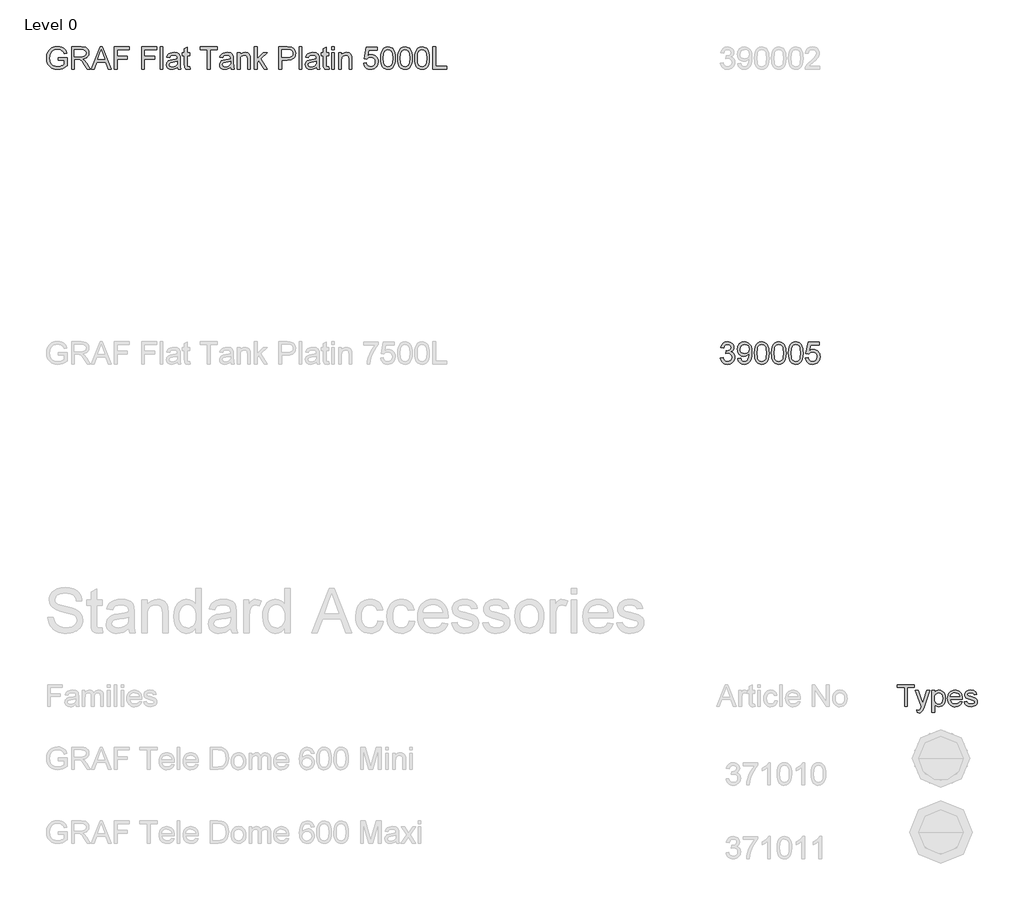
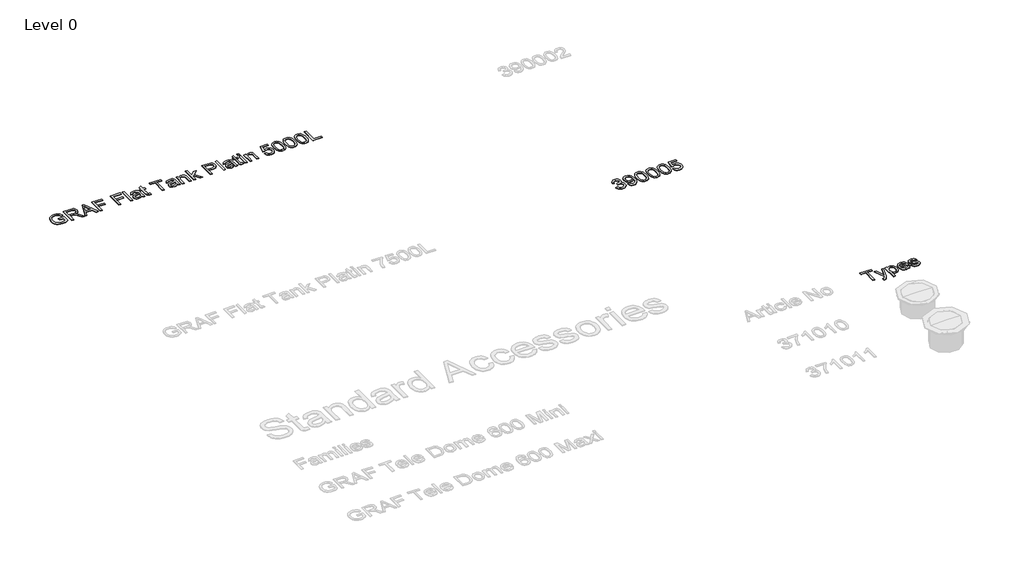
# One storey, part 10 of 14: 3 proxies.
"""IFC4 building model written with IfcOpenShell, lengths in millimetres."""

from ifc_helpers import new_model, si_unit, origin, origin_with_axes, place, context, project, spatial, polyline, outline, extrude, element, save

model = new_model("IFC4")

# Units and contexts
model_context = context("Model", 3, world=origin())
ifc_project = project(units=[si_unit("LENGTHUNIT", "METRE", prefix="MILLI")], contexts=[model_context])

# Site, building, storey
site = spatial("IfcSite", under=ifc_project)
building = spatial("IfcBuilding", under=site)
storey = spatial("IfcBuildingStorey", under=building, Name="Level 0", Elevation=0.0)

# Proxies
placement = place(None, origin())
element("IfcBuildingElementProxy", 1, Name="300mm Arial", ObjectType="300mm Arial", at=placement, inside=storey, context=model_context, shape_type="SweptSolid", body=[
    extrude(outline(polyline([(-15240.9940387, 1416.7454403), (-15240.9940387, 1454.4165566), (-15118.5629107, 1454.4165566), (-15118.5629107, 1341.7710897), (-15148.3153671, 1321.0777274), (-15179.0059225, 1306.2336889), (-15210.5610007, 1297.2941564), (-15242.9070251, 1294.3143123), (-15285.1674693, 1299.050793), (-15323.3628175, 1313.260235), (-15355.0926395, 1336.4459978), (-15377.9565055, 1368.1114405), (-15391.7796715, 1406.0952565), (-15396.3873935, 1448.2361391), (-15391.7980656, 1490.6805243), (-15378.0300819, 1530.1634594), (-15355.6536596, 1563.282036), (-15325.2390156, 1586.6333457), (-15288.1932987, 1600.4841028), (-15245.9236575, 1605.1010218), (-15214.8928112, 1602.4246803), (-15186.9889618, 1594.3956557), (-15163.4904994, 1581.5933623), (-15145.6758138, 1564.5972141), (-15132.4964413, 1542.5886738), (-15122.9039183, 1514.7492038), (-15157.6319786, 1504.9635427), (-15165.3850917, 1524.8199734), (-15174.8120678, 1539.8019677), (-15187.2832674, 1551.0959449), (-15204.169051, 1559.8883246), (-15224.3013932, 1565.5445103), (-15246.5122687, 1567.4299055), (-15272.5123287, 1565.3973575), (-15294.7415982, 1559.2997134), (-15313.1173039, 1549.9003284), (-15327.5566722, 1537.9625577), (-15346.9440533, 1508.9366683), (-15355.7732212, 1480.49939), (-15358.7162772, 1449.7812434), (-15355.175413, 1413.7563991), (-15344.5528204, 1384.1143073), (-15327.1703961, 1361.0665003), (-15303.3500369, 1344.8245102), (-15275.4737787, 1335.195199), (-15245.9236575, 1331.9854286), (-15219.831627, 1334.4042527), (-15194.3833899, 1341.6607251), (-15172.2828791, 1351.6579183), (-15156.234027, 1362.298905), (-15156.234027, 1416.7454403), (-15240.9940387, 1416.7454403)])), origin_with_axes(), (0.0, 0.0, 1.0), 10.0),
    extrude(outline(polyline([(-15057.3473467, 1299.0232018), (-15057.3473467, 1600.3921323), (-14927.4850024, 1600.3921323), (-14892.5821982, 1598.3595842), (-14867.1891434, 1592.2619402), (-14848.6294968, 1581.0047511), (-14834.2269167, 1563.4935682), (-14824.9838815, 1541.7793334), (-14821.9028698, 1517.912989), (-14827.0072325, 1488.2249119), (-14842.3203206, 1463.6136065), (-14853.9200997, 1453.5842236), (-14868.3019865, 1445.5689946), (-14905.4120827, 1435.5809984), (-14884.0013506, 1419.467767), (-14853.467145, 1380.6930048), (-14803.2144645, 1299.0232018), (-14846.9924219, 1299.0232018), (-14886.2086426, 1361.4895646), (-14914.5355562, 1402.8395009), (-14934.4379722, 1422.3740348), (-14952.3538253, 1429.5477337), (-14974.2060158, 1430.8721089), (-15019.6762304, 1430.8721089), (-15019.6762304, 1299.0232018), (-15057.3473467, 1299.0232018)]), holes=[polyline([(-15019.6762304, 1468.5432252), (-14935.3576771, 1468.5432252), (-14911.1418448, 1469.8767974), (-14892.3522719, 1473.8775141), (-14878.2072092, 1480.8120897), (-14867.9249074, 1490.9472387), (-14861.6617165, 1503.2069062), (-14859.5739861, 1516.5150374), (-14863.5563087, 1534.890743), (-14875.5032765, 1549.6979933), (-14896.058683, 1559.4652603), (-14925.8663217, 1562.721016), (-15019.6762304, 1562.721016), (-15019.6762304, 1468.5432252)])]), origin_with_axes(), (0.0, 0.0, 1.0), 10.0),
    extrude(outline(polyline([(-14791.0743586, 1299.0232018), (-14670.7769462, 1600.3921323), (-14638.6976362, 1600.3921323), (-14518.4002238, 1299.0232018), (-14558.2050557, 1299.0232018), (-14592.7123868, 1393.2009926), (-14716.835772, 1393.2009926), (-14751.2695268, 1299.0232018), (-14791.0743586, 1299.0232018)]), holes=[polyline([(-14703.003409, 1430.8721089), (-14606.4711735, 1430.8721089), (-14633.6208647, 1504.9635427), (-14654.7372912, 1562.721016), (-14673.499273, 1511.4382658), (-14703.003409, 1430.8721089)])]), origin_with_axes(), (0.0, 0.0, 1.0), 10.0),
    extrude(outline(polyline([(-14478.1539335, 1299.0232018), (-14478.1539335, 1600.3921323), (-14275.6716834, 1600.3921323), (-14275.6716834, 1562.721016), (-14440.4828172, 1562.721016), (-14440.4828172, 1473.2521147), (-14299.2161311, 1473.2521147), (-14299.2161311, 1435.5809984), (-14440.4828172, 1435.5809984), (-14440.4828172, 1299.0232018), (-14478.1539335, 1299.0232018)])), origin_with_axes(), (0.0, 0.0, 1.0), 10.0),
    extrude(outline(polyline([(-14106.15166, 1299.0232018), (-14106.15166, 1600.3921323), (-13903.6694099, 1600.3921323), (-13903.6694099, 1562.721016), (-14068.4805437, 1562.721016), (-14068.4805437, 1473.2521147), (-13927.2138576, 1473.2521147), (-13927.2138576, 1435.5809984), (-14068.4805437, 1435.5809984), (-14068.4805437, 1299.0232018), (-14106.15166, 1299.0232018)])), origin_with_axes(), (0.0, 0.0, 1.0), 10.0),
    extrude(outline(polyline([(-13856.5805145, 1299.0232018), (-13856.5805145, 1600.3921323), (-13818.9093982, 1600.3921323), (-13818.9093982, 1299.0232018), (-13856.5805145, 1299.0232018)])), origin_with_axes(), (0.0, 0.0, 1.0), 10.0),
    extrude(outline(polyline([(-13621.1360376, 1327.2765391), (-13639.1346642, 1311.8438894), (-13657.6667197, 1301.7455286), (-13677.1552684, 1296.1721164), (-13698.0233746, 1294.3143123), (-13729.5048763, 1298.7840785), (-13752.7274272, 1312.1933772), (-13767.0472339, 1332.5556457), (-13771.8205028, 1357.8843211), (-13770.017881, 1373.5009117), (-13764.6100157, 1387.6827627), (-13756.2682915, 1399.8228685), (-13745.6640929, 1409.314224), (-13719.2869539, 1421.675059), (-13686.6926091, 1427.3404417), (-13648.1753642, 1433.3001301), (-13621.3567668, 1440.289888), (-13621.1360376, 1448.6775975), (-13623.7296056, 1465.4898046), (-13631.5103098, 1476.4894763), (-13648.9111282, 1484.6564566), (-13673.1545517, 1487.3787834), (-13695.5953534, 1485.5669645), (-13711.2671264, 1480.131508), (-13721.9540984, 1470.0791325), (-13729.440497, 1454.4165566), (-13767.1116133, 1459.1254461), (-13760.5725108, 1479.7268379), (-13750.8144409, 1495.9136456), (-13736.9268956, 1508.2928748), (-13717.9993669, 1517.4715306), (-13694.8503924, 1523.1553074), (-13668.2985094, 1525.0498997), (-13642.8318782, 1523.3760366), (-13622.6443538, 1518.3544473), (-13607.4232362, 1510.8036694), (-13596.8558259, 1501.5422402), (-13589.8476739, 1490.0919131), (-13585.3043312, 1475.9744415), (-13583.4649213, 1443.0122147), (-13583.4649213, 1396.1440485), (-13581.5519349, 1330.6978416), (-13574.0471422, 1299.0232018), (-13611.7182585, 1299.0232018), (-13621.1360376, 1327.2765391)]), holes=[polyline([(-13621.1360376, 1402.6187717), (-13681.9101432, 1391.067277), (-13714.320547, 1384.9604359), (-13728.9990386, 1375.027622), (-13734.1493865, 1360.5330714), (-13731.3442863, 1349.3310647), (-13722.9289856, 1340.1524089), (-13709.0874256, 1334.0271737), (-13690.0035471, 1331.9854286), (-13669.7700373, 1334.2387058), (-13651.8909724, 1340.9985375), (-13637.3964218, 1350.9589425), (-13627.3164551, 1362.8139398), (-13622.8466889, 1375.027622), (-13621.3567668, 1391.9501938), (-13621.1360376, 1402.6187717)])]), origin_with_axes(), (0.0, 0.0, 1.0), 10.0),
    extrude(outline(polyline([(-13451.6160142, 1330.4403242), (-13446.9071247, 1297.9195558), (-13475.0868855, 1294.3143123), (-13493.1682856, 1295.8778108), (-13506.6511607, 1300.5683062), (-13516.1793043, 1307.7971874), (-13522.3965101, 1316.9758432), (-13525.8178126, 1332.7395867), (-13526.9582468, 1359.723731), (-13526.9582468, 1482.6698938), (-13555.211584, 1482.6698938), (-13555.211584, 1520.3410101), (-13526.9582468, 1520.3410101), (-13526.9582468, 1574.1253578), (-13489.2871305, 1596.2718539), (-13489.2871305, 1520.3410101), (-13451.6160142, 1520.3410101), (-13451.6160142, 1482.6698938), (-13489.2871305, 1482.6698938), (-13489.2871305, 1360.827377), (-13487.3005677, 1341.4032077), (-13480.8626328, 1334.5238144), (-13468.0235512, 1331.9854286), (-13451.6160142, 1330.4403242)])), origin_with_axes(), (0.0, 0.0, 1.0), 10.0),
    extrude(outline(polyline([(-13216.1715373, 1299.0232018), (-13216.1715373, 1562.721016), (-13315.0582176, 1562.721016), (-13315.0582176, 1600.3921323), (-13079.6137407, 1600.3921323), (-13079.6137407, 1562.721016), (-13178.500421, 1562.721016), (-13178.500421, 1299.0232018), (-13216.1715373, 1299.0232018)])), origin_with_axes(), (0.0, 0.0, 1.0), 10.0),
    extrude(outline(polyline([(-12900.6759382, 1327.2765391), (-12918.6745648, 1311.8438894), (-12937.2066203, 1301.7455286), (-12956.695169, 1296.1721164), (-12977.5632752, 1294.3143123), (-13009.0447769, 1298.7840785), (-13032.2673279, 1312.1933772), (-13046.5871346, 1332.5556457), (-13051.3604034, 1357.8843211), (-13049.5577817, 1373.5009117), (-13044.1499163, 1387.6827627), (-13035.8081921, 1399.8228685), (-13025.2039936, 1409.314224), (-12998.8268545, 1421.675059), (-12966.2325098, 1427.3404417), (-12927.7152649, 1433.3001301), (-12900.8966674, 1440.289888), (-12900.6759382, 1448.6775975), (-12903.2695063, 1465.4898046), (-12911.0502105, 1476.4894763), (-12928.4510289, 1484.6564566), (-12952.6944523, 1487.3787834), (-12975.135254, 1485.5669645), (-12990.807027, 1480.131508), (-13001.493999, 1470.0791325), (-13008.9803976, 1454.4165566), (-13046.6515139, 1459.1254461), (-13040.1124114, 1479.7268379), (-13030.3543415, 1495.9136456), (-13016.4667962, 1508.2928748), (-12997.5392675, 1517.4715306), (-12974.390293, 1523.1553074), (-12947.83841, 1525.0498997), (-12922.3717789, 1523.3760366), (-12902.1842544, 1518.3544473), (-12886.9631368, 1510.8036694), (-12876.3957265, 1501.5422402), (-12869.3875745, 1490.0919131), (-12864.8442319, 1475.9744415), (-12863.0048219, 1443.0122147), (-12863.0048219, 1396.1440485), (-12861.0918355, 1330.6978416), (-12853.5870428, 1299.0232018), (-12891.2581591, 1299.0232018), (-12900.6759382, 1327.2765391)]), holes=[polyline([(-12900.6759382, 1402.6187717), (-12961.4500438, 1391.067277), (-12993.8604476, 1384.9604359), (-13008.5389392, 1375.027622), (-13013.6892871, 1360.5330714), (-13010.8841869, 1349.3310647), (-13002.4688863, 1340.1524089), (-12988.6273262, 1334.0271737), (-12969.5434477, 1331.9854286), (-12949.309938, 1334.2387058), (-12931.430873, 1340.9985375), (-12916.9363224, 1350.9589425), (-12906.8563557, 1362.8139398), (-12902.3865895, 1375.027622), (-12900.8966674, 1391.9501938), (-12900.6759382, 1402.6187717)])]), origin_with_axes(), (0.0, 0.0, 1.0), 10.0),
    extrude(outline(polyline([(-12811.207037, 1299.0232018), (-12811.207037, 1520.3410101), (-12773.5359207, 1520.3410101), (-12773.5359207, 1489.4389225), (-12760.4485187, 1505.018725), (-12744.7307605, 1516.1471554), (-12726.382646, 1522.8242136), (-12705.4041752, 1525.0498997), (-12686.8353315, 1523.2564749), (-12669.8299862, 1517.8762008), (-12655.6481353, 1509.5804618), (-12645.5497746, 1499.0406426), (-12634.2557973, 1471.3391284), (-12632.2692345, 1434.9188108), (-12632.2692345, 1299.0232018), (-12669.9403508, 1299.0232018), (-12669.9403508, 1429.8420393), (-12674.2813584, 1463.1721481), (-12680.287032, 1473.0957649), (-12689.6220376, 1480.7936956), (-12701.5873995, 1485.7325114), (-12715.4841418, 1487.3787834), (-12737.5478645, 1483.6815693), (-12756.3558315, 1472.5899271), (-12763.8721205, 1463.5354315), (-12769.2408984, 1451.1608009), (-12773.5359207, 1416.4511347), (-12773.5359207, 1299.0232018), (-12811.207037, 1299.0232018)])), origin_with_axes(), (0.0, 0.0, 1.0), 10.0),
    extrude(outline(polyline([(-12580.4714496, 1299.0232018), (-12580.4714496, 1600.3921323), (-12542.8003333, 1600.3921323), (-12542.8003333, 1438.450478), (-12458.3346272, 1520.3410101), (-12406.2425367, 1520.3410101), (-12491.7383124, 1437.4204084), (-12401.5336472, 1299.0232018), (-12445.5323338, 1299.0232018), (-12518.7408508, 1411.2272104), (-12542.8003333, 1387.9034919), (-12542.8003333, 1299.0232018), (-12580.4714496, 1299.0232018)])), origin_with_axes(), (0.0, 0.0, 1.0), 10.0),
    extrude(outline(polyline([(-12246.1402924, 1299.0232018), (-12246.1402924, 1600.3921323), (-12134.4513187, 1600.3921323), (-12089.4225625, 1597.5226527), (-12069.3454026, 1592.1607726), (-12052.8183039, 1583.4327723), (-12039.5101728, 1570.9431786), (-12029.0899152, 1554.2965183), (-12022.3576747, 1534.6608168), (-12020.1135946, 1513.2040994), (-12021.6288085, 1494.7042336), (-12026.1744504, 1477.6850928), (-12033.7505203, 1462.146677), (-12044.357018, 1448.0889863), (-12058.9182473, 1436.4363241), (-12078.3585115, 1428.1129939), (-12102.6778106, 1423.1189958), (-12131.8761447, 1421.4543298), (-12208.4691761, 1421.4543298), (-12208.4691761, 1299.0232018), (-12246.1402924, 1299.0232018)]), holes=[polyline([(-12208.4691761, 1459.1254461), (-12129.6688527, 1459.1254461), (-12096.2651676, 1462.5835369), (-12074.1922479, 1472.9578091), (-12061.8865951, 1489.6044694), (-12057.7847109, 1511.8797242), (-12060.203535, 1528.802296), (-12067.4600073, 1543.0761174), (-12078.652817, 1553.8182717), (-12092.8806532, 1560.145842), (-12130.5517695, 1562.721016), (-12208.4691761, 1562.721016), (-12208.4691761, 1459.1254461)])]), origin_with_axes(), (0.0, 0.0, 1.0), 10.0),
    extrude(outline(polyline([(-11973.0246992, 1299.0232018), (-11973.0246992, 1600.3921323), (-11935.3535829, 1600.3921323), (-11935.3535829, 1299.0232018), (-11973.0246992, 1299.0232018)])), origin_with_axes(), (0.0, 0.0, 1.0), 10.0),
    extrude(outline(polyline([(-11737.5802223, 1327.2765391), (-11755.5788489, 1311.8438894), (-11774.1109044, 1301.7455286), (-11793.5994531, 1296.1721164), (-11814.4675593, 1294.3143123), (-11845.949061, 1298.7840785), (-11869.1716119, 1312.1933772), (-11883.4914186, 1332.5556457), (-11888.2646875, 1357.8843211), (-11886.4620657, 1373.5009117), (-11881.0542004, 1387.6827627), (-11872.7124761, 1399.8228685), (-11862.1082776, 1409.314224), (-11835.7311386, 1421.675059), (-11803.1367938, 1427.3404417), (-11764.6195489, 1433.3001301), (-11737.8009515, 1440.289888), (-11737.5802223, 1448.6775975), (-11740.1737903, 1465.4898046), (-11747.9544945, 1476.4894763), (-11765.3553129, 1484.6564566), (-11789.5987364, 1487.3787834), (-11812.0395381, 1485.5669645), (-11827.7113111, 1480.131508), (-11838.398283, 1470.0791325), (-11845.8846816, 1454.4165566), (-11883.555798, 1459.1254461), (-11877.0166955, 1479.7268379), (-11867.2586256, 1495.9136456), (-11853.3710803, 1508.2928748), (-11834.4435516, 1517.4715306), (-11811.2945771, 1523.1553074), (-11784.742694, 1525.0498997), (-11759.2760629, 1523.3760366), (-11739.0885384, 1518.3544473), (-11723.8674209, 1510.8036694), (-11713.3000106, 1501.5422402), (-11706.2918586, 1490.0919131), (-11701.7485159, 1475.9744415), (-11699.909106, 1443.0122147), (-11699.909106, 1396.1440485), (-11697.9961196, 1330.6978416), (-11690.4913269, 1299.0232018), (-11728.1624432, 1299.0232018), (-11737.5802223, 1327.2765391)]), holes=[polyline([(-11737.5802223, 1402.6187717), (-11798.3543279, 1391.067277), (-11830.7647316, 1384.9604359), (-11845.4432233, 1375.027622), (-11850.5935712, 1360.5330714), (-11847.788471, 1349.3310647), (-11839.3731703, 1340.1524089), (-11825.5316103, 1334.0271737), (-11806.4477318, 1331.9854286), (-11786.214222, 1334.2387058), (-11768.3351571, 1340.9985375), (-11753.8406065, 1350.9589425), (-11743.7606398, 1362.8139398), (-11739.2908735, 1375.027622), (-11737.8009515, 1391.9501938), (-11737.5802223, 1402.6187717)])]), origin_with_axes(), (0.0, 0.0, 1.0), 10.0),
    extrude(outline(polyline([(-11568.0601989, 1330.4403242), (-11563.3513094, 1297.9195558), (-11591.5310702, 1294.3143123), (-11609.6124702, 1295.8778108), (-11623.0953454, 1300.5683062), (-11632.623489, 1307.7971874), (-11638.8406948, 1316.9758432), (-11642.2619973, 1332.7395867), (-11643.4024315, 1359.723731), (-11643.4024315, 1482.6698938), (-11671.6557687, 1482.6698938), (-11671.6557687, 1520.3410101), (-11643.4024315, 1520.3410101), (-11643.4024315, 1574.1253578), (-11605.7313152, 1596.2718539), (-11605.7313152, 1520.3410101), (-11568.0601989, 1520.3410101), (-11568.0601989, 1482.6698938), (-11605.7313152, 1482.6698938), (-11605.7313152, 1360.827377), (-11603.7447524, 1341.4032077), (-11597.3068175, 1334.5238144), (-11584.4677359, 1331.9854286), (-11568.0601989, 1330.4403242)])), origin_with_axes(), (0.0, 0.0, 1.0), 10.0),
    extrude(outline(polyline([(-11530.3890826, 1562.721016), (-11530.3890826, 1600.3921323), (-11492.7179663, 1600.3921323), (-11492.7179663, 1562.721016), (-11530.3890826, 1562.721016)])), origin_with_axes(), (0.0, 0.0, 1.0), 10.0),
    extrude(outline(polyline([(-11530.3890826, 1299.0232018), (-11530.3890826, 1520.3410101), (-11492.7179663, 1520.3410101), (-11492.7179663, 1299.0232018), (-11530.3890826, 1299.0232018)])), origin_with_axes(), (0.0, 0.0, 1.0), 10.0),
    extrude(outline(polyline([(-11436.2112918, 1299.0232018), (-11436.2112918, 1520.3410101), (-11398.5401755, 1520.3410101), (-11398.5401755, 1489.4389225), (-11385.4527735, 1505.018725), (-11369.7350153, 1516.1471554), (-11351.3869008, 1522.8242136), (-11330.40843, 1525.0498997), (-11311.8395863, 1523.2564749), (-11294.8342411, 1517.8762008), (-11280.6523902, 1509.5804618), (-11270.5540294, 1499.0406426), (-11259.2600521, 1471.3391284), (-11257.2734894, 1434.9188108), (-11257.2734894, 1299.0232018), (-11294.9446057, 1299.0232018), (-11294.9446057, 1429.8420393), (-11299.2856132, 1463.1721481), (-11305.2912868, 1473.0957649), (-11314.6262924, 1480.7936956), (-11326.5916543, 1485.7325114), (-11340.4883967, 1487.3787834), (-11362.5521193, 1483.6815693), (-11381.3600863, 1472.5899271), (-11388.8763754, 1463.5354315), (-11394.2451532, 1451.1608009), (-11398.5401755, 1416.4511347), (-11398.5401755, 1299.0232018), (-11436.2112918, 1299.0232018)])), origin_with_axes(), (0.0, 0.0, 1.0), 10.0),
    extrude(outline(polyline([(-11097.1712451, 1379.074324), (-11059.5001288, 1383.7832135), (-11052.5839472, 1361.1676679), (-11040.5174178, 1344.971663), (-11023.3557227, 1335.2319872), (-11001.1540443, 1331.9854286), (-10974.1515059, 1336.5011801), (-10953.9179961, 1350.0484346), (-10941.2812496, 1371.0636935), (-10937.0690008, 1397.9834585), (-10941.0145352, 1423.330528), (-10952.8511384, 1442.7179091), (-10972.6707808, 1455.0235619), (-11000.5654331, 1459.1254461), (-11018.8399712, 1457.4883712), (-11033.6380245, 1452.5771466), (-11054.7912392, 1435.5809984), (-11092.4623555, 1440.289888), (-11059.5001288, 1595.6832427), (-10913.5245531, 1595.6832427), (-10913.5245531, 1558.0121264), (-11029.0394996, 1558.0121264), (-11045.1527309, 1475.0179483), (-11018.242163, 1491.3519089), (-10990.0440081, 1496.7965624), (-10971.6981928, 1495.1089038), (-10954.8468982, 1490.0459278), (-10939.4901241, 1481.6076346), (-10925.6278707, 1469.794024), (-10914.1522517, 1455.3270645), (-10905.955381, 1438.9287246), (-10901.0372586, 1420.5990042), (-10899.3978845, 1400.3379033), (-10905.3023905, 1362.666787), (-10912.683023, 1345.8729739), (-10923.0159085, 1330.4403242), (-10938.6692874, 1314.635194), (-10956.9346285, 1303.3458153), (-10977.8119317, 1296.572188), (-11001.3011971, 1294.3143123), (-11038.3009288, 1300.1176508), (-11053.9795996, 1307.3718238), (-11067.7774736, 1317.5276662), (-11079.2576912, 1330.07934), (-11087.9833922, 1344.5210076), (-11097.1712451, 1379.074324)])), origin_with_axes(), (0.0, 0.0, 1.0), 10.0),
    extrude(outline(polyline([(-10866.4356577, 1447.2796459), (-10863.6673457, 1495.5181725), (-10855.3624096, 1533.9894321), (-10841.603623, 1563.282036), (-10822.4737593, 1583.9845953), (-10797.8348626, 1596.290248), (-10767.5489774, 1600.3921323), (-10744.3356235, 1597.9641111), (-10723.5502908, 1590.6800476), (-10706.1678665, 1578.8250503), (-10693.163238, 1562.6842278), (-10683.3407887, 1542.3955357), (-10675.5049022, 1518.0969299), (-10670.3729484, 1487.2408276), (-10668.6622971, 1447.2796459), (-10671.4030179, 1399.3170308), (-10679.6251805, 1360.9377416), (-10693.3011937, 1331.6175466), (-10712.4034663, 1310.8322139), (-10737.0975452, 1298.4437877), (-10767.5489774, 1294.3143123), (-10788.2975219, 1296.107737), (-10806.6916217, 1301.4880112), (-10822.7312767, 1310.4551348), (-10836.4164869, 1323.0091079), (-10849.5498741, 1345.7028285), (-10858.930865, 1373.9791583), (-10864.5594595, 1407.8380975), (-10866.4356577, 1447.2796459)]), holes=[polyline([(-10828.7645414, 1447.3532223), (-10824.3499574, 1388.0966299), (-10818.8317275, 1367.8286312), (-10811.1062056, 1353.8008309), (-10791.3877307, 1337.4392792), (-10767.5489774, 1331.9854286), (-10743.7102241, 1337.4576733), (-10723.9917492, 1353.8744073), (-10716.2662273, 1367.9252003), (-10710.7479973, 1388.1886004), (-10706.3334134, 1447.3532223), (-10710.6008445, 1505.2762424), (-10715.9351335, 1525.4775625), (-10723.403138, 1539.8387559), (-10743.0848247, 1557.0004509), (-10767.9904358, 1562.721016), (-10791.5716717, 1557.6810326), (-10810.5175944, 1542.5610826), (-10818.5006337, 1526.9260978), (-10824.2028046, 1505.8464595), (-10828.7645414, 1447.3532223)])]), origin_with_axes(), (0.0, 0.0, 1.0), 10.0),
    extrude(outline(polyline([(-10635.7000703, 1447.2796459), (-10632.9317583, 1495.5181725), (-10624.6268223, 1533.9894321), (-10610.8680356, 1563.282036), (-10591.7381719, 1583.9845953), (-10567.0992753, 1596.290248), (-10536.81339, 1600.3921323), (-10513.6000361, 1597.9641111), (-10492.8147034, 1590.6800476), (-10475.4322791, 1578.8250503), (-10462.4276506, 1562.6842278), (-10452.6052013, 1542.3955357), (-10444.7693148, 1518.0969299), (-10439.637361, 1487.2408276), (-10437.9267097, 1447.2796459), (-10440.6674306, 1399.3170308), (-10448.8895932, 1360.9377416), (-10462.5656063, 1331.6175466), (-10481.6678789, 1310.8322139), (-10506.3619579, 1298.4437877), (-10536.81339, 1294.3143123), (-10557.5619345, 1296.107737), (-10575.9560343, 1301.4880112), (-10591.9956893, 1310.4551348), (-10605.6808995, 1323.0091079), (-10618.8142867, 1345.7028285), (-10628.1952776, 1373.9791583), (-10633.8238721, 1407.8380975), (-10635.7000703, 1447.2796459)]), holes=[polyline([(-10598.028954, 1447.3532223), (-10593.6143701, 1388.0966299), (-10588.0961401, 1367.8286312), (-10580.3706182, 1353.8008309), (-10560.6521433, 1337.4392792), (-10536.81339, 1331.9854286), (-10512.9746367, 1337.4576733), (-10493.2561618, 1353.8744073), (-10485.5306399, 1367.9252003), (-10480.01241, 1388.1886004), (-10475.597826, 1447.3532223), (-10479.8652572, 1505.2762424), (-10485.1995461, 1525.4775625), (-10492.6675506, 1539.8387559), (-10512.3492373, 1557.0004509), (-10537.2548484, 1562.721016), (-10560.8360843, 1557.6810326), (-10579.782007, 1542.5610826), (-10587.7650463, 1526.9260978), (-10593.4672173, 1505.8464595), (-10598.028954, 1447.3532223)])]), origin_with_axes(), (0.0, 0.0, 1.0), 10.0),
    extrude(outline(polyline([(-10404.9644829, 1447.2796459), (-10402.1961709, 1495.5181725), (-10393.8912349, 1533.9894321), (-10380.1324483, 1563.282036), (-10361.0025845, 1583.9845953), (-10336.3636879, 1596.290248), (-10306.0778026, 1600.3921323), (-10282.8644487, 1597.9641111), (-10262.079116, 1590.6800476), (-10244.6966917, 1578.8250503), (-10231.6920632, 1562.6842278), (-10221.8696139, 1542.3955357), (-10214.0337274, 1518.0969299), (-10208.9017736, 1487.2408276), (-10207.1911223, 1447.2796459), (-10209.9318432, 1399.3170308), (-10218.1540058, 1360.9377416), (-10231.830019, 1331.6175466), (-10250.9322916, 1310.8322139), (-10275.6263705, 1298.4437877), (-10306.0778026, 1294.3143123), (-10326.8263472, 1296.107737), (-10345.2204469, 1301.4880112), (-10361.2601019, 1310.4551348), (-10374.9453121, 1323.0091079), (-10388.0786994, 1345.7028285), (-10397.4596902, 1373.9791583), (-10403.0882848, 1407.8380975), (-10404.9644829, 1447.2796459)]), holes=[polyline([(-10367.2933666, 1447.3532223), (-10362.8787827, 1388.0966299), (-10357.3605528, 1367.8286312), (-10349.6350309, 1353.8008309), (-10329.9165559, 1337.4392792), (-10306.0778026, 1331.9854286), (-10282.2390493, 1337.4576733), (-10262.5205744, 1353.8744073), (-10254.7950525, 1367.9252003), (-10249.2768226, 1388.1886004), (-10244.8622386, 1447.3532223), (-10249.1296698, 1505.2762424), (-10254.4639587, 1525.4775625), (-10261.9319632, 1539.8387559), (-10281.61365, 1557.0004509), (-10306.519261, 1562.721016), (-10330.1004969, 1557.6810326), (-10349.0464197, 1542.5610826), (-10357.029459, 1526.9260978), (-10362.7316299, 1505.8464595), (-10367.2933666, 1447.3532223)])]), origin_with_axes(), (0.0, 0.0, 1.0), 10.0),
    extrude(outline(polyline([(-10160.102227, 1299.0232018), (-10160.102227, 1600.3921323), (-10122.4311106, 1600.3921323), (-10122.4311106, 1336.6943181), (-9971.7466454, 1336.6943181), (-9971.7466454, 1299.0232018), (-10160.102227, 1299.0232018)])), origin_with_axes(), (0.0, 0.0, 1.0), 10.0),
])
element("IfcBuildingElementProxy", 2, Name="300mm Arial", ObjectType="300mm Arial", at=placement, inside=storey, context=model_context, shape_type="SweptSolid", body=[
    extrude(outline(polyline([(-6261.2846424, -2620.925676), (-6223.6135261, -2616.2167865), (-6215.1798313, -2639.8899929), (-6202.8281934, -2655.8744656), (-6185.9516068, -2664.979545), (-6163.9430665, -2668.0145714), (-6138.1177504, -2663.8391108), (-6118.1785463, -2651.3127288), (-6105.4314351, -2632.6243235), (-6101.1823981, -2609.9627926), (-6105.3946469, -2588.4508929), (-6118.0313935, -2571.0040893), (-6137.1612572, -2559.4433976), (-6160.8528577, -2555.5898337), (-6187.266785, -2559.710112), (-6183.0729302, -2522.0389957), (-6177.0396655, -2522.4804541), (-6154.4701051, -2519.7765215), (-6134.2917777, -2511.6647235), (-6120.0547444, -2497.942725), (-6115.3090667, -2478.4081911), (-6118.7487634, -2462.1386099), (-6129.0678533, -2448.9408433), (-6144.8132027, -2440.1944488), (-6164.5316777, -2437.278984), (-6184.2869408, -2440.22204), (-6200.4369604, -2449.0512079), (-6212.2275783, -2463.7664877), (-6218.9046365, -2484.3678794), (-6256.5757528, -2479.6589899), (-6245.4841107, -2445.8322404), (-6225.7472417, -2420.5771415), (-6198.7447032, -2404.8501862), (-6165.8560528, -2399.6078677), (-6142.1736494, -2402.1922387), (-6120.4226264, -2409.9453518), (-6102.083709, -2422.1774281), (-6088.637622, -2438.198689), (-6080.3878683, -2456.6571681), (-6077.6379504, -2476.2008991), (-6080.2499126, -2494.4110579), (-6088.0857991, -2510.9289595), (-6101.0352453, -2525.0004458), (-6118.9878867, -2535.8713587), (-6095.4066508, -2545.3995024), (-6077.932256, -2561.6230984), (-6067.1165253, -2583.6592299), (-6063.5112818, -2610.6249802), (-6065.3139036, -2629.7364498), (-6070.7217689, -2647.3396033), (-6079.7348778, -2663.4344406), (-6092.3532302, -2678.0209617), (-6107.7260991, -2690.1242793), (-6125.0027573, -2698.7695062), (-6144.1832048, -2703.9566423), (-6165.2674416, -2705.6856877), (-6184.323729, -2704.2095612), (-6201.6877592, -2699.7811817), (-6217.3595322, -2692.4005492), (-6231.339048, -2682.0676636), (-6243.0606881, -2669.3895304), (-6251.9588338, -2654.9731547), (-6258.0334853, -2638.8185366), (-6261.2846424, -2620.925676)])), origin_with_axes(), (0.0, 0.0, 1.0), 10.0),
    extrude(outline(polyline([(-6025.8401655, -2625.6345656), (-5988.1690492, -2620.925676), (-5981.7311143, -2642.308817), (-5971.2464774, -2656.867747), (-5956.972656, -2665.2278653), (-5939.1671674, -2668.0145714), (-5923.1918918, -2666.2211467), (-5908.66975, -2660.8408725), (-5896.6032206, -2652.4623601), (-5887.9947819, -2641.6742206), (-5875.670735, -2608.932723), (-5870.2260815, -2565.228342), (-5870.4468107, -2557.8707021), (-5883.4974245, -2573.7999924), (-5900.5763461, -2586.4183449), (-5920.4511709, -2594.6405075), (-5941.8894942, -2597.3812283), (-5959.784654, -2595.7073653), (-5976.2404755, -2590.685776), (-5991.2569587, -2582.3164606), (-6004.8341035, -2570.5994191), (-6016.0843948, -2556.1462552), (-6024.1203171, -2539.5685728), (-6028.9418705, -2520.8663719), (-6030.549055, -2500.0396524), (-6028.8636956, -2478.5185557), (-6023.8076174, -2459.2047509), (-6015.3808205, -2442.0982382), (-6003.5833048, -2427.1990174), (-5989.2474033, -2415.1278894), (-5973.205449, -2406.5056551), (-5955.457442, -2401.3323146), (-5936.0033823, -2399.6078677), (-5907.9063949, -2403.5442051), (-5882.3293992, -2415.3532171), (-5860.9370611, -2434.4462927), (-5845.3940468, -2460.2348205), (-5835.9302825, -2495.8825859), (-5832.7756944, -2544.5533738), (-5835.9210855, -2596.1580207), (-5845.3572586, -2636.045626), (-5861.0014405, -2666.0188116), (-5882.7708575, -2687.8801991), (-5909.7274107, -2701.2343156), (-5940.933001, -2705.6856877), (-5973.1410697, -2700.4341722), (-5998.837627, -2684.6796258), (-6016.8086625, -2659.4153298), (-6025.8401655, -2625.6345656)]), holes=[polyline([(-5870.4468107, -2499.1567356), (-5874.5119068, -2473.6257252), (-5886.7071949, -2453.9808266), (-5905.6347235, -2441.4544447), (-5929.8965411, -2437.278984), (-5955.0596696, -2441.7763414), (-5975.2196029, -2455.2684136), (-5988.4633548, -2475.9157906), (-5992.8779387, -2501.8790624), (-5988.7024781, -2525.1567956), (-5976.1760961, -2543.6336688), (-5956.5128035, -2555.6910012), (-5930.9266107, -2559.710112), (-5906.8579312, -2555.6910012), (-5887.4797471, -2543.6336688), (-5874.7050448, -2524.4762139), (-5870.4468107, -2499.1567356)])]), origin_with_axes(), (0.0, 0.0, 1.0), 10.0),
    extrude(outline(polyline([(-5799.8134676, -2552.7203541), (-5797.0451556, -2504.4818275), (-5788.7402196, -2466.0105679), (-5774.981433, -2436.717964), (-5755.8515692, -2416.0154047), (-5731.2126726, -2403.709752), (-5700.9267873, -2399.6078677), (-5677.7134334, -2402.0358889), (-5656.9281007, -2409.3199524), (-5639.5456764, -2421.1749497), (-5626.5410479, -2437.3157722), (-5616.7185986, -2457.6044643), (-5608.8827121, -2481.9030701), (-5603.7507583, -2512.7591724), (-5602.040107, -2552.7203541), (-5604.7808279, -2600.6829692), (-5613.0029905, -2639.0622584), (-5626.6790037, -2668.3824534), (-5645.7812763, -2689.1677861), (-5670.4753552, -2701.5562123), (-5700.9267873, -2705.6856877), (-5721.6753319, -2703.892263), (-5740.0694316, -2698.5119888), (-5756.1090866, -2689.5448652), (-5769.7942968, -2676.9908921), (-5782.9276841, -2654.2971715), (-5792.3086749, -2626.0208417), (-5797.9372695, -2592.1619025), (-5799.8134676, -2552.7203541)]), holes=[polyline([(-5762.1423513, -2552.6467777), (-5757.7277674, -2611.9033701), (-5752.2095375, -2632.1713688), (-5744.4840156, -2646.1991691), (-5724.7655406, -2662.5607208), (-5700.9267873, -2668.0145714), (-5677.088034, -2662.5423267), (-5657.3695591, -2646.1255927), (-5649.6440372, -2632.0747997), (-5644.1258073, -2611.8113996), (-5639.7112233, -2552.6467777), (-5643.9786545, -2494.7237576), (-5649.3129434, -2474.5224375), (-5656.7809479, -2460.1612441), (-5676.4626347, -2442.9995491), (-5701.3682457, -2437.278984), (-5724.9494816, -2442.3189674), (-5743.8954044, -2457.4389174), (-5751.8784437, -2473.0739022), (-5757.5806146, -2494.1535405), (-5762.1423513, -2552.6467777)])]), origin_with_axes(), (0.0, 0.0, 1.0), 10.0),
    extrude(outline(polyline([(-5569.0778803, -2552.7203541), (-5566.3095682, -2504.4818275), (-5558.0046322, -2466.0105679), (-5544.2458456, -2436.717964), (-5525.1159818, -2416.0154047), (-5500.4770852, -2403.709752), (-5470.1912, -2399.6078677), (-5446.9778461, -2402.0358889), (-5426.1925133, -2409.3199524), (-5408.8100891, -2421.1749497), (-5395.8054605, -2437.3157722), (-5385.9830113, -2457.6044643), (-5378.1471248, -2481.9030701), (-5373.0151709, -2512.7591724), (-5371.3045197, -2552.7203541), (-5374.0452405, -2600.6829692), (-5382.2674031, -2639.0622584), (-5395.9434163, -2668.3824534), (-5415.0456889, -2689.1677861), (-5439.7397678, -2701.5562123), (-5470.1912, -2705.6856877), (-5490.9397445, -2703.892263), (-5509.3338442, -2698.5119888), (-5525.3734992, -2689.5448652), (-5539.0587095, -2676.9908921), (-5552.1920967, -2654.2971715), (-5561.5730876, -2626.0208417), (-5567.2016821, -2592.1619025), (-5569.0778803, -2552.7203541)]), holes=[polyline([(-5531.406764, -2552.6467777), (-5526.99218, -2611.9033701), (-5521.4739501, -2632.1713688), (-5513.7484282, -2646.1991691), (-5494.0299532, -2662.5607208), (-5470.1912, -2668.0145714), (-5446.3524467, -2662.5423267), (-5426.6339717, -2646.1255927), (-5418.9084498, -2632.0747997), (-5413.3902199, -2611.8113996), (-5408.975636, -2552.6467777), (-5413.2430671, -2494.7237576), (-5418.577356, -2474.5224375), (-5426.0453605, -2460.1612441), (-5445.7270473, -2442.9995491), (-5470.6326584, -2437.278984), (-5494.2138942, -2442.3189674), (-5513.159817, -2457.4389174), (-5521.1428563, -2473.0739022), (-5526.8450272, -2494.1535405), (-5531.406764, -2552.6467777)])]), origin_with_axes(), (0.0, 0.0, 1.0), 10.0),
    extrude(outline(polyline([(-5338.3422929, -2552.7203541), (-5335.5739809, -2504.4818275), (-5327.2690448, -2466.0105679), (-5313.5102582, -2436.717964), (-5294.3803945, -2416.0154047), (-5269.7414978, -2403.709752), (-5239.4556126, -2399.6078677), (-5216.2422587, -2402.0358889), (-5195.456926, -2409.3199524), (-5178.0745017, -2421.1749497), (-5165.0698732, -2437.3157722), (-5155.2474239, -2457.6044643), (-5147.4115374, -2481.9030701), (-5142.2795836, -2512.7591724), (-5140.5689323, -2552.7203541), (-5143.3096531, -2600.6829692), (-5151.5318157, -2639.0622584), (-5165.2078289, -2668.3824534), (-5184.3101015, -2689.1677861), (-5209.0041804, -2701.5562123), (-5239.4556126, -2705.6856877), (-5260.2041571, -2703.892263), (-5278.5982569, -2698.5119888), (-5294.6379119, -2689.5448652), (-5308.3231221, -2676.9908921), (-5321.4565093, -2654.2971715), (-5330.8375002, -2626.0208417), (-5336.4660947, -2592.1619025), (-5338.3422929, -2552.7203541)]), holes=[polyline([(-5300.6711766, -2552.6467777), (-5296.2565926, -2611.9033701), (-5290.7383627, -2632.1713688), (-5283.0128408, -2646.1991691), (-5263.2943659, -2662.5607208), (-5239.4556126, -2668.0145714), (-5215.6168593, -2662.5423267), (-5195.8983844, -2646.1255927), (-5188.1728625, -2632.0747997), (-5182.6546325, -2611.8113996), (-5178.2400486, -2552.6467777), (-5182.5074797, -2494.7237576), (-5187.8417687, -2474.5224375), (-5195.3097732, -2460.1612441), (-5214.9914599, -2442.9995491), (-5239.897071, -2437.278984), (-5263.4783069, -2442.3189674), (-5282.4242296, -2457.4389174), (-5290.4072689, -2473.0739022), (-5296.1094398, -2494.1535405), (-5300.6711766, -2552.6467777)])]), origin_with_axes(), (0.0, 0.0, 1.0), 10.0),
    extrude(outline(polyline([(-5107.6067055, -2620.925676), (-5069.9355892, -2616.2167865), (-5063.0194077, -2638.8323321), (-5050.9528783, -2655.028337), (-5033.7911832, -2664.7680128), (-5011.5895048, -2668.0145714), (-4984.5869663, -2663.4988199), (-4964.3534566, -2649.9515654), (-4951.7167101, -2628.9363065), (-4947.5044612, -2602.0165415), (-4951.4499956, -2576.669472), (-4963.2865988, -2557.2820909), (-4983.1062413, -2544.9764381), (-5011.0008936, -2540.8745539), (-5029.2754317, -2542.5116288), (-5044.0734849, -2547.4228534), (-5065.2266997, -2564.4190016), (-5102.897816, -2559.710112), (-5069.9355892, -2404.3167573), (-4923.9600135, -2404.3167573), (-4923.9600135, -2441.9878736), (-5039.47496, -2441.9878736), (-5055.5881914, -2524.9820517), (-5028.6776234, -2508.6480911), (-5000.4794685, -2503.2034376), (-4982.1336533, -2504.8910962), (-4965.2823586, -2509.9540722), (-4949.9255846, -2518.3923654), (-4936.0633312, -2530.205976), (-4924.5877122, -2544.6729355), (-4916.3908415, -2561.0712754), (-4911.472719, -2579.4009958), (-4909.8333449, -2599.6620967), (-4915.7378509, -2637.333213), (-4923.1184835, -2654.1270261), (-4933.451369, -2669.5596758), (-4949.1047479, -2685.364806), (-4967.370089, -2696.6541847), (-4988.2473922, -2703.427812), (-5011.7366576, -2705.6856877), (-5048.7363892, -2699.8823492), (-5064.41506, -2692.6281762), (-5078.2129341, -2682.4723338), (-5089.6931516, -2669.92066), (-5098.4188527, -2655.4789924), (-5107.6067055, -2620.925676)])), origin_with_axes(), (0.0, 0.0, 1.0), 10.0),
])
element("IfcBuildingElementProxy", 3, Name="300mm Arial", ObjectType="300mm Arial", at=placement, inside=storey, context=model_context, shape_type="SweptSolid", body=[
    extrude(outline(polyline([(-3763.9663544, -7345.798374), (-3763.9663544, -7087.3368356), (-3860.8894313, -7087.3368356), (-3860.8894313, -7050.4137586), (-3630.1202005, -7050.4137586), (-3630.1202005, -7087.3368356), (-3727.0432775, -7087.3368356), (-3727.0432775, -7345.798374), (-3763.9663544, -7345.798374)])), origin_with_axes(), (0.0, 0.0, 1.0), 10.0),
    extrude(outline(polyline([(-3593.1971236, -7428.8752971), (-3597.8125082, -7393.3224125), (-3579.0625082, -7396.5676048), (-3561.5384698, -7392.4930856), (-3550.7932775, -7381.1349125), (-3540.6971236, -7353.9474125), (-3537.8125082, -7345.0051048), (-3616.2740467, -7128.8752971), (-3577.331739, -7128.8752971), (-3535.7211621, -7249.3079894), (-3521.2259698, -7297.4810663), (-3506.7307775, -7254.9329894), (-3463.9663544, -7128.8752971), (-3425.3125082, -7128.8752971), (-3500.8173159, -7350.9906817), (-3520.4327005, -7399.1637586), (-3530.4747678, -7414.5423644), (-3541.8509698, -7425.1974125), (-3555.066114, -7431.4173644), (-3570.6250082, -7433.4906817), (-3593.1971236, -7428.8752971)])), origin_with_axes(), (0.0, 0.0, 1.0), 10.0),
    extrude(outline(polyline([(-3394.7355852, -7428.8752971), (-3394.7355852, -7128.8752971), (-3357.8125082, -7128.8752971), (-3357.8125082, -7165.0772202), (-3345.769239, -7147.2196481), (-3332.2836621, -7134.4642394), (-3316.5625082, -7126.8109942), (-3297.8125082, -7124.2599125), (-3272.8425563, -7127.829624), (-3251.0096236, -7138.5387586), (-3233.2331813, -7155.7382779), (-3220.4327005, -7178.7791433), (-3212.6983255, -7205.9846721), (-3210.1202005, -7235.6781817), (-3213.0318592, -7267.2557058), (-3221.7668352, -7295.4978933), (-3236.0456813, -7318.9714509), (-3255.5889505, -7336.2430856), (-3278.3503688, -7346.8710904), (-3302.2836621, -7350.4137586), (-3319.2578207, -7348.0429654), (-3334.4110659, -7340.9305856), (-3347.3828207, -7330.1944077), (-3357.8125082, -7316.9522202), (-3357.8125082, -7428.8752971), (-3394.7355852, -7428.8752971)]), holes=[polyline([(-3357.8125082, -7239.0676048), (-3353.8191188, -7272.1685663), (-3341.8389505, -7295.3176048), (-3324.1616669, -7308.9474125), (-3303.0769313, -7313.4906817), (-3281.6496477, -7308.7851529), (-3263.5216428, -7294.6685663), (-3251.1628688, -7270.6721721), (-3247.0432775, -7236.3272202), (-3251.0637102, -7203.4065471), (-3263.1250082, -7179.9329894), (-3280.7752486, -7165.8704894), (-3301.5625082, -7161.1829894), (-3322.4308977, -7166.1679654), (-3340.7572198, -7181.1228933), (-3353.5486861, -7205.5790231), (-3357.8125082, -7239.0676048)])]), origin_with_axes(), (0.0, 0.0, 1.0), 10.0),
    extrude(outline(polyline([(-3016.706739, -7281.1829894), (-2980.5048159, -7285.798374), (-2993.5486861, -7313.0760183), (-3014.362989, -7333.4666433), (-3042.4789746, -7346.1769798), (-3077.4278928, -7350.4137586), (-3100.3380491, -7348.5860844), (-3120.7512102, -7343.1030615), (-3138.667376, -7333.9646901), (-3154.0865467, -7321.1709702), (-3166.4858856, -7305.0779714), (-3175.3425563, -7286.0417634), (-3180.6565587, -7264.0623464), (-3182.4278928, -7239.1397202), (-3180.6385299, -7213.3719918), (-3175.2704409, -7190.6601529), (-3166.323626, -7171.0042034), (-3153.7980852, -7154.4041433), (-3138.4194794, -7141.2160423), (-3120.9134698, -7131.7959702), (-3101.2800563, -7126.1439269), (-3079.519239, -7124.2599125), (-3058.4592931, -7126.1394197), (-3039.4140707, -7131.7779413), (-3022.3835719, -7141.1754774), (-3007.3677967, -7154.3320279), (-2995.1104349, -7170.8960303), (-2986.3551765, -7190.5159221), (-2981.1020215, -7213.1917034), (-2979.3509698, -7238.923374), (-2979.5673159, -7248.8752971), (-3145.5048159, -7248.8752971), (-3139.11359, -7276.5135183), (-3124.2668352, -7296.8320279), (-3102.8395515, -7309.3260183), (-3076.706739, -7313.4906817), (-3057.0552967, -7311.5615952), (-3040.5048159, -7305.7743356), (-3027.0552967, -7295.7683259), (-3016.706739, -7281.1829894)]), holes=[polyline([(-3145.5048159, -7211.9522202), (-3016.2740467, -7211.9522202), (-3021.2680371, -7192.4450086), (-3031.0577005, -7178.4906817), (-3052.5841428, -7165.5099125), (-3079.6634698, -7161.1829894), (-3104.5522919, -7164.6355134), (-3125.1322198, -7174.9930856), (-3139.4381092, -7191.1379173), (-3145.5048159, -7211.9522202)])]), origin_with_axes(), (0.0, 0.0, 1.0), 10.0),
    extrude(outline(polyline([(-2956.2740467, -7281.1829894), (-2919.3509698, -7276.5676048), (-2913.5276525, -7292.360874), (-2902.2596236, -7303.9714509), (-2885.4747678, -7311.110874), (-2863.1009698, -7313.4906817), (-2840.9976044, -7311.3091913), (-2825.456739, -7304.7647202), (-2816.2620275, -7295.2815471), (-2813.1971236, -7284.2839509), (-2816.2800563, -7274.8728933), (-2825.5288544, -7267.6974125), (-2863.5336621, -7257.1685663), (-2919.1346236, -7239.1036625), (-2933.206138, -7230.0261384), (-2943.4014505, -7218.0099125), (-2949.5943592, -7203.8212106), (-2951.6586621, -7188.2262586), (-2950.0000082, -7173.9203692), (-2945.0240467, -7160.7142394), (-2937.1814986, -7149.1307058), (-2926.9230852, -7139.6926048), (-2903.4495275, -7128.767124), (-2871.6827005, -7124.2599125), (-2847.6502486, -7126.0718115), (-2826.7548159, -7131.5075086), (-2809.9519313, -7140.0351529), (-2798.1971236, -7151.1228933), (-2790.4086621, -7165.5910423), (-2785.5048159, -7184.2599125), (-2822.4278928, -7188.8752971), (-2827.0883496, -7177.2557058), (-2836.3101044, -7168.5027009), (-2850.1833015, -7163.0129173), (-2868.7980852, -7161.1829894), (-2890.0000082, -7162.9317875), (-2904.1346236, -7168.1781817), (-2912.0853448, -7175.7502971), (-2914.7355852, -7184.4762586), (-2910.3365467, -7195.2214509), (-2896.5625082, -7203.3704894), (-2864.7596236, -7211.2310663), (-2810.5649121, -7228.610874), (-2796.2500082, -7236.9221721), (-2785.3966428, -7248.298374), (-2778.5546957, -7262.7755375), (-2776.2740467, -7280.3897202), (-2778.9513303, -7298.5988548), (-2786.9831813, -7315.7262586), (-2800.0631092, -7330.4287827), (-2817.8846236, -7341.3632779), (-2839.4110659, -7348.1511384), (-2863.6057775, -7350.4137586), (-2900.8353448, -7346.0507779), (-2928.0048159, -7332.9618356), (-2946.1418352, -7311.2911625), (-2956.2740467, -7281.1829894)])), origin_with_axes(), (0.0, 0.0, 1.0), 10.0),
])

save(model, "model.ifc")
